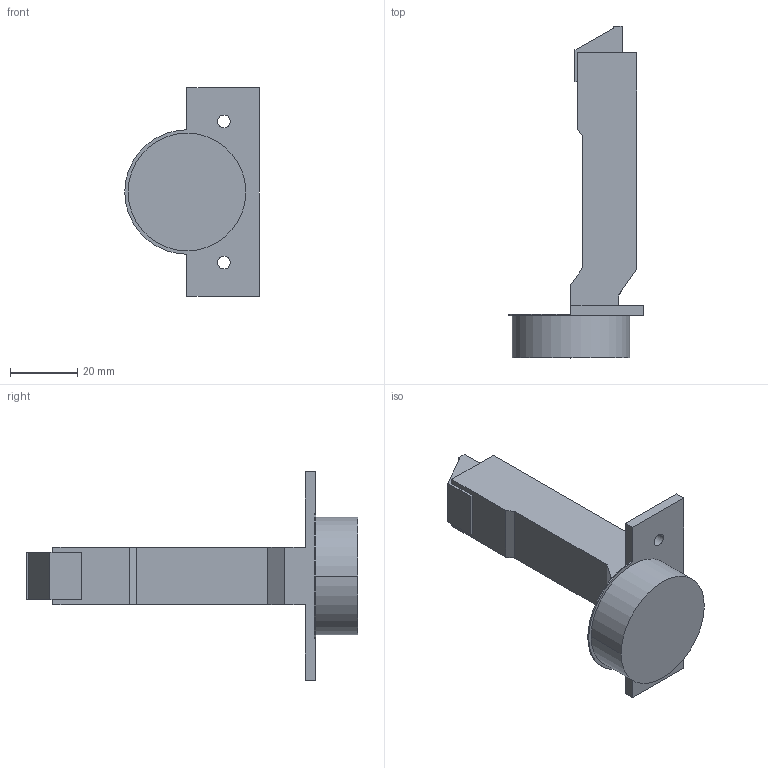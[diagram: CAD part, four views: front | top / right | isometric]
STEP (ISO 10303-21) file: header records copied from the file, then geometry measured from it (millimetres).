
FILE_DESCRIPTION (( 'STEP AP214' ), '1' );
FILE_NAME ('Scharnier TT Click-on 120° G_BB, K00.step', '2010-12-06T09:58:23', ( 'grass' ), ( '' ), 'SwSTEP 2.0', 'SolidWorks 2010', '' );
FILE_SCHEMA (( 'AUTOMOTIVE_DESIGN' ));
Length unit declared in the file: millimetre
Products named in the file (1): Scharnier TT Click-on 120° G_BB, K00
Bounding box: 40 x 98.7 x 62 mm (x, y, z)
Volume: 38090.2 mm3; surface area: 11194.5 mm2
Topology: 1 solids, 1 shells, 44 faces, 114 edges, 76 vertices
Faces by surface type: plane 31, cylinder 13
Entity records: 1386 total; most frequent: CARTESIAN_POINT 235, DIRECTION 230, ORIENTED_EDGE 228, EDGE_CURVE 114, LINE 88, VECTOR 88, VERTEX_POINT 76, AXIS2_PLACEMENT_3D 71
